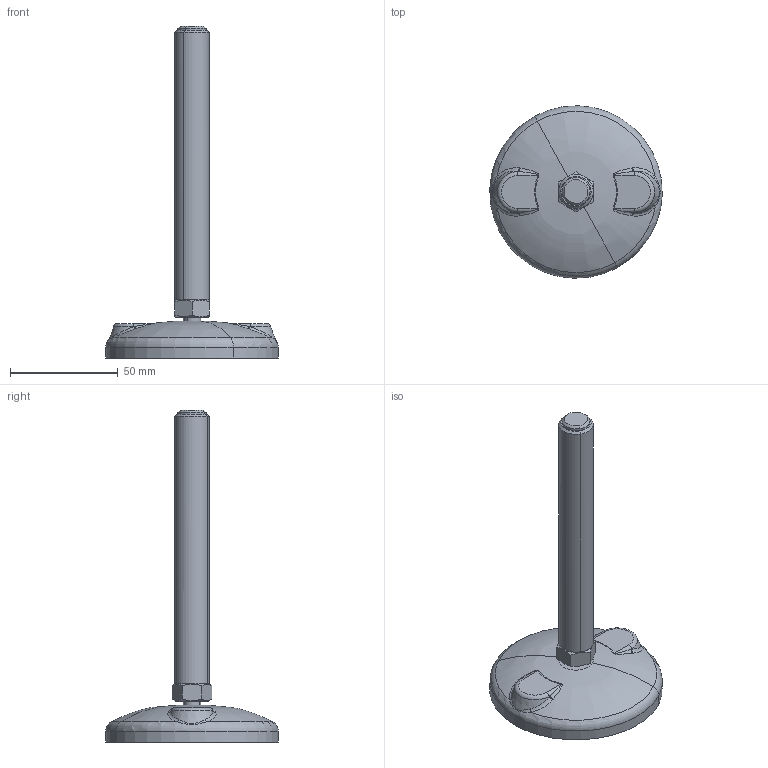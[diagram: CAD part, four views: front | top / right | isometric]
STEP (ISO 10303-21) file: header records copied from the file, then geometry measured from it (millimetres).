
FILE_DESCRIPTION(('CATIA V5 STEP Exchange'),'2;1');
FILE_NAME('X:\CODICI MOVEX\3D per clienti\Daryna Itsenko\19-12-2013\P95402H_01.stp','2013-12-19T16:11:19+00:00',('none'),('none'),'CATIA Version 5 Release 21 SP 1 (IN-10)','CATIA V5 STEP AP203','none');
FILE_SCHEMA(('CONFIG_CONTROL_DESIGN'));
Length unit declared in the file: millimetre
Products named in the file (1): P95402H
Assembly tree (2 placements, depth 2):
  P95402H
    #58
    #23509
Bounding box: 79.98 x 79.98 x 154 mm (x, y, z)
Volume: 61339.7 mm3; surface area: 35629.6 mm2
Topology: 2 solids, 4 shells, 639 faces, 1824 edges, 1201 vertices
Faces by surface type: plane 494, torus 48, cylinder 30, revolution 21, sphere 18, bspline 14, cone 14
Entity records: 24373 total; most frequent: CARTESIAN_POINT 10340, ORIENTED_EDGE 3636, EDGE_CURVE 1818, DIRECTION 1751, VERTEX_POINT 1201, B_SPLINE_CURVE_WITH_KNOTS 1079, AXIS2_PLACEMENT_3D 704, EDGE_LOOP 655
